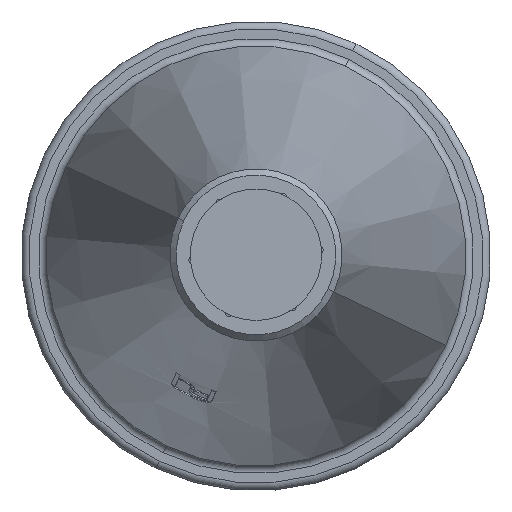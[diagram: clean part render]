
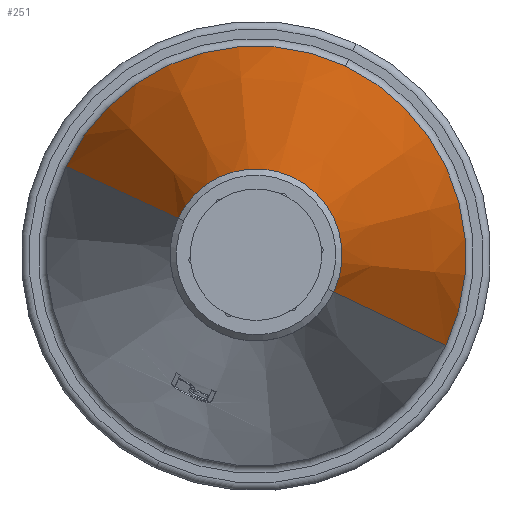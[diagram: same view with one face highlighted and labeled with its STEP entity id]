
A CAD part, top view. The second image highlights one B-rep face of the part: STEP entity #251.
In plain terms, the highlighted conical face has half-angle 13.35 degrees and reference radius 94.544 mm.
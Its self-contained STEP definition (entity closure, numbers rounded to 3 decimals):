
#251=ADVANCED_FACE('',(#553),#554,.T.);
#553=FACE_OUTER_BOUND('',#941,.T.);
#554=CONICAL_SURFACE('',#942,94.544,0.233);
#941=EDGE_LOOP('',(#1514,#1515,#1516,#1517,#1518));
#942=AXIS2_PLACEMENT_3D('',#1519,#1520,#1521);
#1514=ORIENTED_EDGE('',*,*,#2205,.T.);
#1515=ORIENTED_EDGE('',*,*,#2321,.F.);
#1516=ORIENTED_EDGE('',*,*,#2186,.F.);
#1517=ORIENTED_EDGE('',*,*,#2207,.T.);
#1518=ORIENTED_EDGE('',*,*,#2322,.T.);
#1519=CARTESIAN_POINT('',(449.843,423.186,-45.927));
#1520=DIRECTION('',(0.,0.,-1.0));
#1521=DIRECTION('',(0.905,-0.426,0.));
#2186=EDGE_CURVE('',#2576,#2578,#2579,.T.);
#2205=EDGE_CURVE('',#2611,#2612,#2613,.T.);
#2207=EDGE_CURVE('',#2576,#2614,#2616,.T.);
#2321=EDGE_CURVE('',#2578,#2612,#2789,.T.);
#2322=EDGE_CURVE('',#2614,#2611,#2790,.T.);
#2576=VERTEX_POINT('',#3126);
#2578=VERTEX_POINT('',#3128);
#2579=CIRCLE('',#3129,134.087);
#2611=VERTEX_POINT('',#3247);
#2612=VERTEX_POINT('',#3248);
#2613=LINE('',#3249,#3250);
#2614=VERTEX_POINT('',#3251);
#2616=LINE('',#3253,#3254);
#2789=CIRCLE('',#3850,134.087);
#2790=CIRCLE('',#3851,55.0);
#3126=CARTESIAN_POINT('',(328.514,480.272,-212.563));
#3128=CARTESIAN_POINT('',(506.929,544.514,-212.563));
#3129=AXIS2_PLACEMENT_3D('',#4361,#4362,#4363);
#3247=CARTESIAN_POINT('',(499.609,399.77,120.708));
#3248=CARTESIAN_POINT('',(571.171,366.1,-212.563));
#3249=CARTESIAN_POINT('',(535.39,382.935,-45.927));
#3250=VECTOR('',#4385,1.0);
#3251=CARTESIAN_POINT('',(400.076,446.601,120.708));
#3253=CARTESIAN_POINT('',(364.295,463.437,-45.927));
#3254=VECTOR('',#4389,1.0);
#3850=AXIS2_PLACEMENT_3D('',#4497,#4498,#4499);
#3851=AXIS2_PLACEMENT_3D('',#4500,#4501,#4502);
#4361=CARTESIAN_POINT('',(449.843,423.186,-212.563));
#4362=DIRECTION('',(0.,0.,-1.0));
#4363=DIRECTION('',(0.905,-0.426,0.));
#4385=DIRECTION('',(0.209,-0.098,-0.973));
#4389=DIRECTION('',(0.209,-0.098,0.973));
#4497=CARTESIAN_POINT('',(449.843,423.186,-212.563));
#4498=DIRECTION('',(0.,0.,-1.0));
#4499=DIRECTION('',(0.905,-0.426,0.));
#4500=CARTESIAN_POINT('',(449.843,423.186,120.708));
#4501=DIRECTION('',(0.,0.,-1.0));
#4502=DIRECTION('',(0.905,-0.426,0.));
